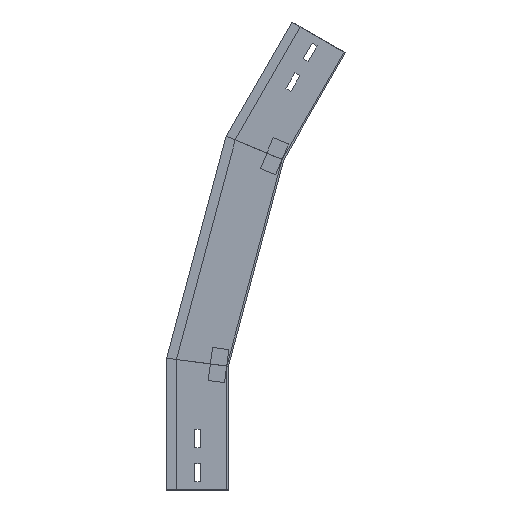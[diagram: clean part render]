
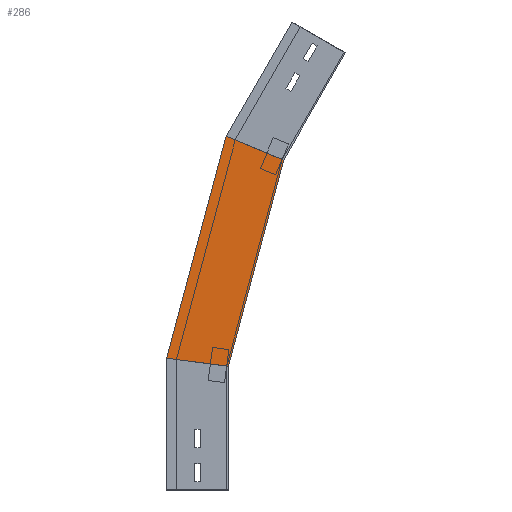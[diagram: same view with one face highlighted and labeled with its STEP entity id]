
A CAD part, left-side view. The second image highlights one B-rep face of the part: STEP entity #286.
In plain terms, the highlighted planar face has unit normal (-1, 0, 0) as drawn and (1, 0, 0) by its records, which use the part's own axes.
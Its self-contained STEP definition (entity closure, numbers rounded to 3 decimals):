
#90 = CARTESIAN_POINT ( 'NONE',  ( 0., -99.589, 386.69 ) ) ;
#179 = VECTOR ( 'NONE', #181, 1000. ) ;
#181 = DIRECTION ( 'NONE',  ( 0., -0.991, -0.131 ) ) ;
#245 = DIRECTION ( 'NONE',  ( 0., 0., -1. ) ) ;
#246 = EDGE_CURVE ( 'NONE', #1248, #679, #1170, .T. ) ;
#249 = CARTESIAN_POINT ( 'NONE',  ( 0., 75., 159.874 ) ) ;
#286 = ADVANCED_FACE ( 'NONE', ( #798 ), #691, .T. ) ;
#373 = VERTEX_POINT ( 'NONE', #1311 ) ;
#440 = EDGE_CURVE ( 'NONE', #1248, #373, #748, .T. ) ;
#442 = ORIENTED_EDGE ( 'NONE', *, *, #528, .T. ) ;
#451 = DIRECTION ( 'NONE',  ( 0., -0.259, 0.966 ) ) ;
#528 = EDGE_CURVE ( 'NONE', #679, #1107, #547, .T. ) ;
#542 = CARTESIAN_POINT ( 'NONE',  ( 0., 2.837, 139.412 ) ) ;
#544 = VECTOR ( 'NONE', #451, 1000. ) ;
#547 = LINE ( 'NONE', #90, #757 ) ;
#556 = DIRECTION ( 'NONE',  ( 0., -0.924, -0.383 ) ) ;
#576 = CARTESIAN_POINT ( 'NONE',  ( 0., 75.281, 158.824 ) ) ;
#663 = ORIENTED_EDGE ( 'NONE', *, *, #246, .T. ) ;
#679 = VERTEX_POINT ( 'NONE', #1174 ) ;
#691 = PLANE ( 'NONE',  #860 ) ;
#712 = CARTESIAN_POINT ( 'NONE',  ( 0., -67.034, 400.175 ) ) ;
#721 = CARTESIAN_POINT ( 'NONE',  ( 0., 2.837, 139.412 ) ) ;
#748 = LINE ( 'NONE', #754, #179 ) ;
#753 = LINE ( 'NONE', #542, #1280 ) ;
#754 = CARTESIAN_POINT ( 'NONE',  ( 0., -19.411, 147.444 ) ) ;
#757 = VECTOR ( 'NONE', #556, 1000. ) ;
#798 = FACE_OUTER_BOUND ( 'NONE', #919, .T. ) ;
#860 = AXIS2_PLACEMENT_3D ( 'NONE', #721, #1021, #245 ) ;
#868 = EDGE_CURVE ( 'NONE', #373, #1107, #753, .T. ) ;
#919 = EDGE_LOOP ( 'NONE', ( #663, #442, #1332, #1146 ) ) ;
#1021 = DIRECTION ( 'NONE',  ( 1., 0., 0. ) ) ;
#1097 = DIRECTION ( 'NONE',  ( 0., -0.259, 0.966 ) ) ;
#1107 = VERTEX_POINT ( 'NONE', #712 ) ;
#1146 = ORIENTED_EDGE ( 'NONE', *, *, #440, .F. ) ;
#1170 = LINE ( 'NONE', #576, #544 ) ;
#1174 = CARTESIAN_POINT ( 'NONE',  ( 0., 2.855, 429.124 ) ) ;
#1248 = VERTEX_POINT ( 'NONE', #249 ) ;
#1280 = VECTOR ( 'NONE', #1097, 1000. ) ;
#1311 = CARTESIAN_POINT ( 'NONE',  ( 0., 0., 150. ) ) ;
#1332 = ORIENTED_EDGE ( 'NONE', *, *, #868, .F. ) ;
